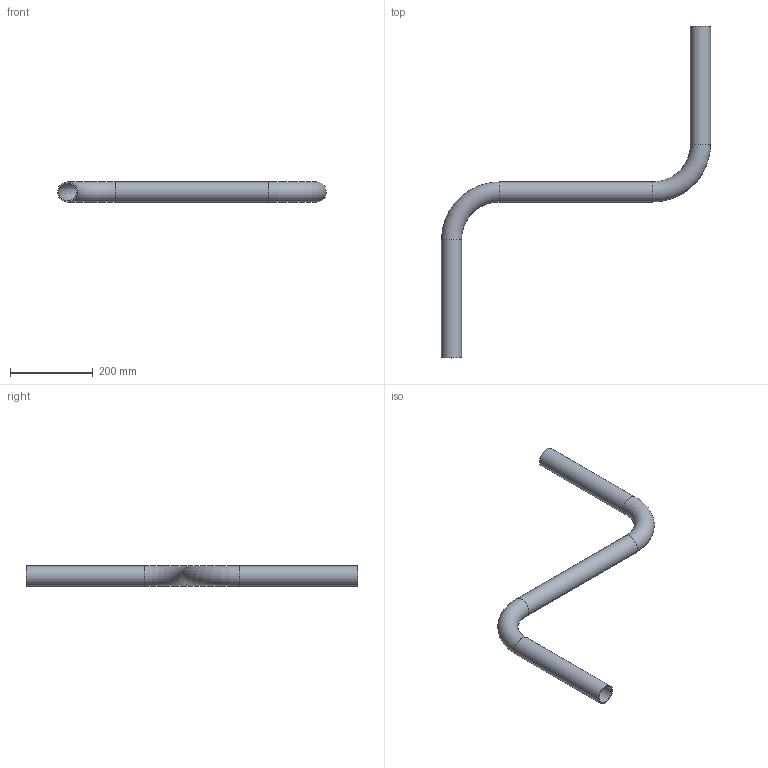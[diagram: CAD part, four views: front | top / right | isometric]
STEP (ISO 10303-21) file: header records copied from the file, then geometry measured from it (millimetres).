
FILE_DESCRIPTION (( 'STEP AP203' ), '1' );
FILE_NAME ('TK048.S.0400.0600.0400.STEP', '2026-07-30T05:43:52', ( '' ), ( '' ), 'SwSTEP 2.0', 'SolidWorks 2022', '' );
FILE_SCHEMA (( 'CONFIG_CONTROL_DESIGN' ));
Length unit declared in the file: millimetre
Products named in the file (1): TK048.S.0400.0600.0400
Bounding box: 648.3 x 800 x 48.3 mm (x, y, z)
Volume: 555573 mm3; surface area: 371235.9 mm2
Topology: 1 solids, 1 shells, 12 faces, 22 edges, 12 vertices
Faces by surface type: cylinder 6, torus 4, plane 2
Full cylindrical faces by diameter (mm): 42.3 x3, 48.3 x3
Entity records: 325 total; most frequent: DIRECTION 50, CARTESIAN_POINT 37, AXIS2_PLACEMENT_3D 25, EDGE_LOOP 24, ORIENTED_EDGE 24, FACE_OUTER_BOUND 22, VERTEX_POINT 12, CIRCLE 12
